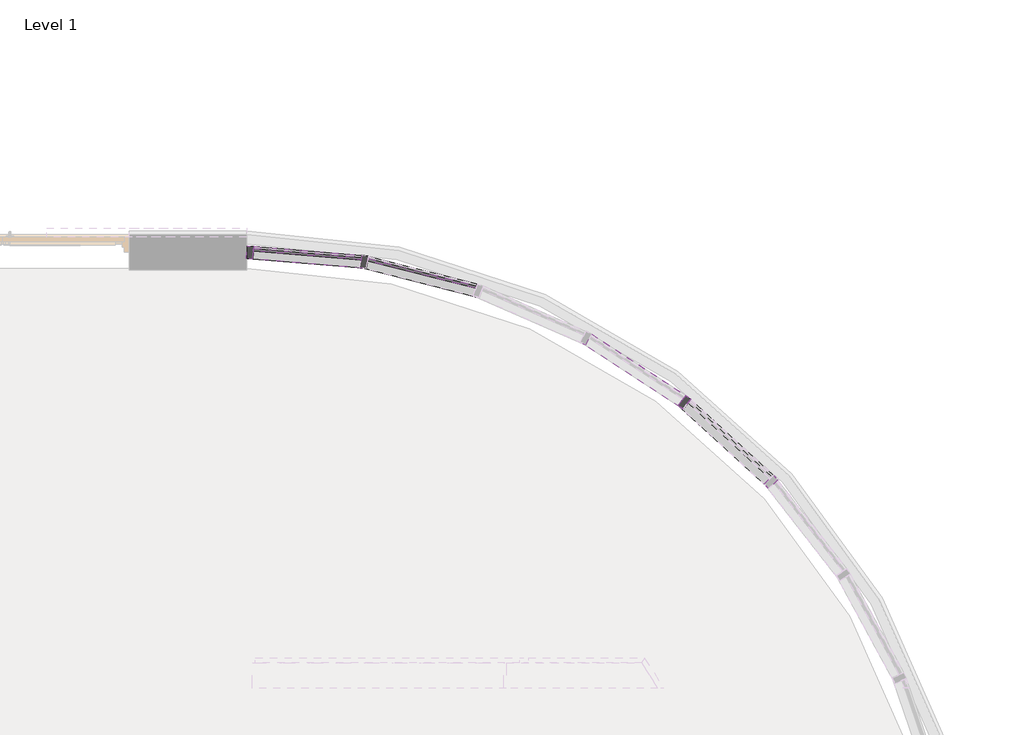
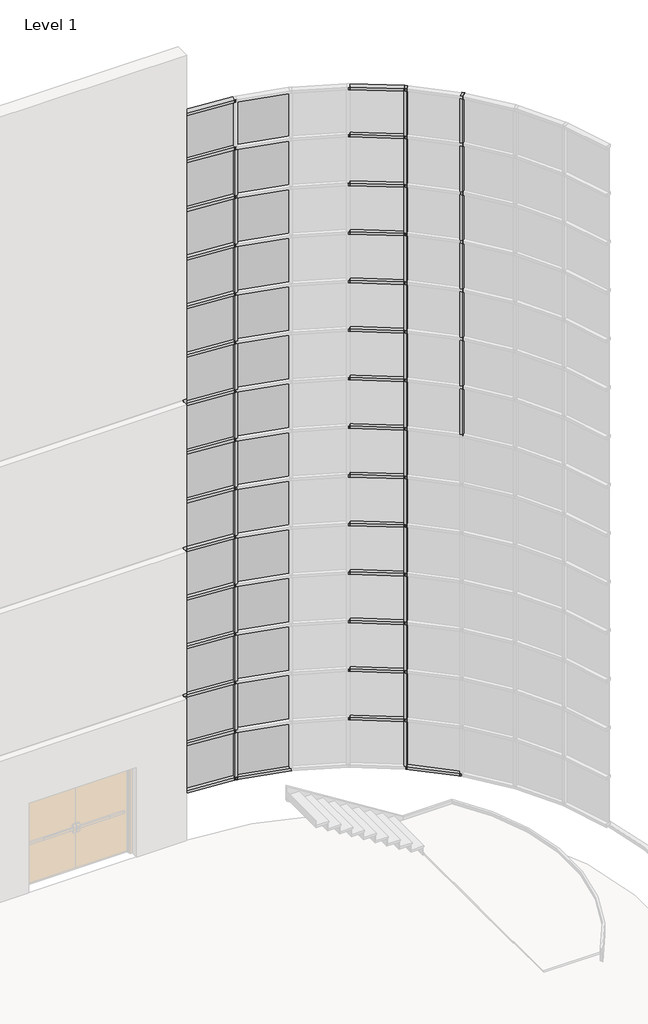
# One storey, part 14 of 20: 79 members, 28 plates.
"""IFC4 building model written with IfcOpenShell, lengths in millimetres."""

from ifc_helpers import new_model, si_unit, origin, place, context, project, spatial, transform, mapped, element, save
from components import member_252506b7, member_68fe8548, member_6fd4d727, member_43d56b1e, member_f830fa99, member_935f61b8, member_e2a7e38a, system_panel_glazed_e4675ec4, system_panel_glazed_da602fa6, system_panel_glazed_b699a21d, system_panel_glazed_77fd207e

model = new_model("IFC4")

# Units and contexts
model_context = context("Model", 3, world=origin())
ifc_project = project(units=[si_unit("LENGTHUNIT", "METRE", prefix="MILLI")], contexts=[model_context])

# Site, building, storey
site = spatial("IfcSite", under=ifc_project)
building = spatial("IfcBuilding", under=site)
storey = spatial("IfcBuildingStorey", under=building, Name="Level 1", Elevation=0.0)

# Members
placement = place(None, origin())
member_shape = member_252506b7(model_context)
element("IfcMember", 1, ObjectType="Rectangular Mullion : 2.5\" x 5\" rectangular", at=placement, inside=storey, context=model_context, shape_type="MappedRepresentation", body=[
    mapped(member_shape, transform((19081.3311433, 4538.4327406, 17983.2), x_axis=(0.0, 0.0, 1.0), y_axis=(-0.08257934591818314, -0.9965844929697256, 0.0), z_axis=(0.9965844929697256, -0.08257934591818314, 0.0))),
])
member_2_shape = member_68fe8548(model_context)
element("IfcMember", 2, ObjectType="Rectangular Mullion : 2.5\" x 5\" rectangular", at=placement, inside=storey, context=model_context, shape_type="MappedRepresentation", body=[
    mapped(member_2_shape, transform((22296.2108179, 3145.2196657, 17983.2), x_axis=(0.0, 0.0, 1.0), y_axis=(-0.5469481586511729, -0.8371664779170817, 0.0), z_axis=(0.8371664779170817, -0.5469481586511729, 0.0))),
])
member_3_shape = member_6fd4d727(model_context)
element("IfcMember", 3, ObjectType="Rectangular Mullion : 2.5\" x 5\" rectangular", at=placement, inside=storey, context=model_context, shape_type="MappedRepresentation", body=[
    mapped(member_3_shape, transform((18001.2170874, 4627.9335435, 1092.2), x_axis=(0.0, 0.0, -1.0), y_axis=(-0.08257934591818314, -0.9965844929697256, 0.0), z_axis=(-0.9965844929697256, 0.08257934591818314, 0.0))),
])
element("IfcMember", 4, ObjectType="Rectangular Mullion : 2.5\" x 5\" rectangular", at=placement, inside=storey, context=model_context, shape_type="MappedRepresentation", body=[
    mapped(member_2_shape, transform((19143.7511594, 4528.0166821, 1092.2), x_axis=(0.0, 0.0, -1.0), y_axis=(-0.2454854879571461, -0.9694002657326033, 0.0), z_axis=(-0.9694002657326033, 0.2454854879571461, 0.0))),
])
element("IfcMember", 5, ObjectType="Rectangular Mullion : 2.5\" x 5\" rectangular", at=placement, inside=storey, context=model_context, shape_type="MappedRepresentation", body=[
    mapped(member_2_shape, transform((22346.1500877, 3106.3503718, 1092.2), x_axis=(0.0, 0.0, -1.0), y_axis=(-0.6772815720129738, -0.735723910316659, 0.0), z_axis=(-0.7357239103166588, 0.6772815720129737, 0.0))),
])
member_4_shape = member_43d56b1e(model_context)
element("IfcMember", 6, ObjectType="Rectangular Mullion : 2.5\" x 5\" rectangular", at=placement, inside=storey, context=model_context, shape_type="MappedRepresentation", body=[
    mapped(member_4_shape, transform((19081.3311433, 4538.4327406, 2298.7), x_axis=(0.0, 0.0, 1.0), y_axis=(-0.08257934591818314, -0.9965844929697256, 0.0), z_axis=(0.9965844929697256, -0.08257934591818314, 0.0))),
])
element("IfcMember", 7, ObjectType="Rectangular Mullion : 2.5\" x 5\" rectangular", at=placement, inside=storey, context=model_context, shape_type="MappedRepresentation", body=[
    mapped(member_4_shape, transform((19081.3311433, 4538.4327406, 3505.2), x_axis=(0.0, 0.0, 1.0), y_axis=(-0.08257934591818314, -0.9965844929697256, 0.0), z_axis=(0.9965844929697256, -0.08257934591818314, 0.0))),
])
element("IfcMember", 8, ObjectType="Rectangular Mullion : 2.5\" x 5\" rectangular", at=placement, inside=storey, context=model_context, shape_type="MappedRepresentation", body=[
    mapped(member_4_shape, transform((19081.3311433, 4538.4327406, 4711.7), x_axis=(0.0, 0.0, 1.0), y_axis=(-0.08257934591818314, -0.9965844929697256, 0.0), z_axis=(0.9965844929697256, -0.08257934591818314, 0.0))),
])
element("IfcMember", 9, ObjectType="Rectangular Mullion : 2.5\" x 5\" rectangular", at=placement, inside=storey, context=model_context, shape_type="MappedRepresentation", body=[
    mapped(member_4_shape, transform((19081.3311433, 4538.4327406, 5918.2), x_axis=(0.0, 0.0, 1.0), y_axis=(-0.08257934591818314, -0.9965844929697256, 0.0), z_axis=(0.9965844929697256, -0.08257934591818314, 0.0))),
])
element("IfcMember", 10, ObjectType="Rectangular Mullion : 2.5\" x 5\" rectangular", at=placement, inside=storey, context=model_context, shape_type="MappedRepresentation", body=[
    mapped(member_4_shape, transform((19081.3311433, 4538.4327406, 7124.7), x_axis=(0.0, 0.0, 1.0), y_axis=(-0.08257934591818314, -0.9965844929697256, 0.0), z_axis=(0.9965844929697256, -0.08257934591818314, 0.0))),
])
element("IfcMember", 11, ObjectType="Rectangular Mullion : 2.5\" x 5\" rectangular", at=placement, inside=storey, context=model_context, shape_type="MappedRepresentation", body=[
    mapped(member_4_shape, transform((19081.3311433, 4538.4327406, 8331.2), x_axis=(0.0, 0.0, 1.0), y_axis=(-0.08257934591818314, -0.9965844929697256, 0.0), z_axis=(0.9965844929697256, -0.08257934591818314, 0.0))),
])
element("IfcMember", 12, ObjectType="Rectangular Mullion : 2.5\" x 5\" rectangular", at=placement, inside=storey, context=model_context, shape_type="MappedRepresentation", body=[
    mapped(member_4_shape, transform((19081.3311433, 4538.4327406, 9537.7), x_axis=(0.0, 0.0, 1.0), y_axis=(-0.08257934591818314, -0.9965844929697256, 0.0), z_axis=(0.9965844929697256, -0.08257934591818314, 0.0))),
])
element("IfcMember", 13, ObjectType="Rectangular Mullion : 2.5\" x 5\" rectangular", at=placement, inside=storey, context=model_context, shape_type="MappedRepresentation", body=[
    mapped(member_4_shape, transform((19081.3311433, 4538.4327406, 10744.2), x_axis=(0.0, 0.0, 1.0), y_axis=(-0.08257934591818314, -0.9965844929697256, 0.0), z_axis=(0.9965844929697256, -0.08257934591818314, 0.0))),
])
element("IfcMember", 14, ObjectType="Rectangular Mullion : 2.5\" x 5\" rectangular", at=placement, inside=storey, context=model_context, shape_type="MappedRepresentation", body=[
    mapped(member_4_shape, transform((19081.3311433, 4538.4327406, 11950.7), x_axis=(0.0, 0.0, 1.0), y_axis=(-0.08257934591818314, -0.9965844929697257, 0.0), z_axis=(0.9965844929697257, -0.08257934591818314, 0.0))),
])
element("IfcMember", 15, ObjectType="Rectangular Mullion : 2.5\" x 5\" rectangular", at=placement, inside=storey, context=model_context, shape_type="MappedRepresentation", body=[
    mapped(member_4_shape, transform((19081.3311433, 4538.4327406, 13157.2), x_axis=(0.0, 0.0, 1.0), y_axis=(-0.08257934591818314, -0.9965844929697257, 0.0), z_axis=(0.9965844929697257, -0.08257934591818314, 0.0))),
])
element("IfcMember", 16, ObjectType="Rectangular Mullion : 2.5\" x 5\" rectangular", at=placement, inside=storey, context=model_context, shape_type="MappedRepresentation", body=[
    mapped(member_4_shape, transform((19081.3311433, 4538.4327406, 14363.7), x_axis=(0.0, 0.0, 1.0), y_axis=(-0.08257934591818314, -0.9965844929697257, 0.0), z_axis=(0.9965844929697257, -0.08257934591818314, 0.0))),
])
element("IfcMember", 17, ObjectType="Rectangular Mullion : 2.5\" x 5\" rectangular", at=placement, inside=storey, context=model_context, shape_type="MappedRepresentation", body=[
    mapped(member_4_shape, transform((19081.3311433, 4538.4327406, 15570.2), x_axis=(0.0, 0.0, 1.0), y_axis=(-0.08257934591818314, -0.9965844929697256, 0.0), z_axis=(0.9965844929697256, -0.08257934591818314, 0.0))),
])
element("IfcMember", 18, ObjectType="Rectangular Mullion : 2.5\" x 5\" rectangular", at=placement, inside=storey, context=model_context, shape_type="MappedRepresentation", body=[
    mapped(member_4_shape, transform((19081.3311433, 4538.4327406, 16776.7), x_axis=(0.0, 0.0, 1.0), y_axis=(-0.08257934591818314, -0.9965844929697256, 0.0), z_axis=(0.9965844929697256, -0.08257934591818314, 0.0))),
])
member_5_shape = member_f830fa99(model_context)
element("IfcMember", 19, ObjectType="Rectangular Mullion : 2.5\" x 5\" rectangular", at=placement, inside=storey, context=model_context, shape_type="MappedRepresentation", body=[
    mapped(member_5_shape, transform((22296.2108179, 3145.2196657, 2298.7), x_axis=(0.0, 0.0, 1.0), y_axis=(-0.5469481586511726, -0.8371664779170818, 0.0), z_axis=(0.8371664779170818, -0.5469481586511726, 0.0))),
])
element("IfcMember", 20, ObjectType="Rectangular Mullion : 2.5\" x 5\" rectangular", at=placement, inside=storey, context=model_context, shape_type="MappedRepresentation", body=[
    mapped(member_5_shape, transform((22296.2108179, 3145.2196657, 3505.2), x_axis=(0.0, 0.0, 1.0), y_axis=(-0.546948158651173, -0.8371664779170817, 0.0), z_axis=(0.8371664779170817, -0.546948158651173, 0.0))),
])
element("IfcMember", 21, ObjectType="Rectangular Mullion : 2.5\" x 5\" rectangular", at=placement, inside=storey, context=model_context, shape_type="MappedRepresentation", body=[
    mapped(member_5_shape, transform((22296.2108179, 3145.2196657, 4711.7), x_axis=(0.0, 0.0, 1.0), y_axis=(-0.546948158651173, -0.8371664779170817, 0.0), z_axis=(0.8371664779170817, -0.546948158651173, 0.0))),
])
element("IfcMember", 22, ObjectType="Rectangular Mullion : 2.5\" x 5\" rectangular", at=placement, inside=storey, context=model_context, shape_type="MappedRepresentation", body=[
    mapped(member_5_shape, transform((22296.2108179, 3145.2196657, 5918.2), x_axis=(0.0, 0.0, 1.0), y_axis=(-0.5469481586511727, -0.8371664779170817, 0.0), z_axis=(0.8371664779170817, -0.5469481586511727, 0.0))),
])
element("IfcMember", 23, ObjectType="Rectangular Mullion : 2.5\" x 5\" rectangular", at=placement, inside=storey, context=model_context, shape_type="MappedRepresentation", body=[
    mapped(member_5_shape, transform((22296.2108179, 3145.2196657, 7124.7), x_axis=(0.0, 0.0, 1.0), y_axis=(-0.5469481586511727, -0.8371664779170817, 0.0), z_axis=(0.8371664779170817, -0.5469481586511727, 0.0))),
])
element("IfcMember", 24, ObjectType="Rectangular Mullion : 2.5\" x 5\" rectangular", at=placement, inside=storey, context=model_context, shape_type="MappedRepresentation", body=[
    mapped(member_5_shape, transform((22296.2108179, 3145.2196657, 8331.2), x_axis=(0.0, 0.0, 1.0), y_axis=(-0.546948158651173, -0.8371664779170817, 0.0), z_axis=(0.8371664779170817, -0.546948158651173, 0.0))),
])
element("IfcMember", 25, ObjectType="Rectangular Mullion : 2.5\" x 5\" rectangular", at=placement, inside=storey, context=model_context, shape_type="MappedRepresentation", body=[
    mapped(member_5_shape, transform((22296.2108179, 3145.2196657, 9537.7), x_axis=(0.0, 0.0, 1.0), y_axis=(-0.546948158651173, -0.8371664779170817, 0.0), z_axis=(0.8371664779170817, -0.546948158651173, 0.0))),
])
element("IfcMember", 26, ObjectType="Rectangular Mullion : 2.5\" x 5\" rectangular", at=placement, inside=storey, context=model_context, shape_type="MappedRepresentation", body=[
    mapped(member_5_shape, transform((22296.2108179, 3145.2196657, 10744.2), x_axis=(0.0, 0.0, 1.0), y_axis=(-0.5469481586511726, -0.8371664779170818, 0.0), z_axis=(0.8371664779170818, -0.5469481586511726, 0.0))),
])
element("IfcMember", 27, ObjectType="Rectangular Mullion : 2.5\" x 5\" rectangular", at=placement, inside=storey, context=model_context, shape_type="MappedRepresentation", body=[
    mapped(member_5_shape, transform((22296.2108179, 3145.2196657, 11950.7), x_axis=(0.0, 0.0, 1.0), y_axis=(-0.546948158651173, -0.8371664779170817, 0.0), z_axis=(0.8371664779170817, -0.546948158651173, 0.0))),
])
element("IfcMember", 28, ObjectType="Rectangular Mullion : 2.5\" x 5\" rectangular", at=placement, inside=storey, context=model_context, shape_type="MappedRepresentation", body=[
    mapped(member_5_shape, transform((22296.2108179, 3145.2196657, 13157.2), x_axis=(0.0, 0.0, 1.0), y_axis=(-0.5469481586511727, -0.8371664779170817, 0.0), z_axis=(0.8371664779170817, -0.5469481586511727, 0.0))),
])
element("IfcMember", 29, ObjectType="Rectangular Mullion : 2.5\" x 5\" rectangular", at=placement, inside=storey, context=model_context, shape_type="MappedRepresentation", body=[
    mapped(member_5_shape, transform((22296.2108179, 3145.2196657, 14363.7), x_axis=(0.0, 0.0, 1.0), y_axis=(-0.5469481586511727, -0.8371664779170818, 0.0), z_axis=(0.8371664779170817, -0.5469481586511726, 0.0))),
])
element("IfcMember", 30, ObjectType="Rectangular Mullion : 2.5\" x 5\" rectangular", at=placement, inside=storey, context=model_context, shape_type="MappedRepresentation", body=[
    mapped(member_5_shape, transform((22296.2108179, 3145.2196657, 15570.2), x_axis=(0.0, 0.0, 1.0), y_axis=(-0.546948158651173, -0.8371664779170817, 0.0), z_axis=(0.8371664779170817, -0.546948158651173, 0.0))),
])
element("IfcMember", 31, ObjectType="Rectangular Mullion : 2.5\" x 5\" rectangular", at=placement, inside=storey, context=model_context, shape_type="MappedRepresentation", body=[
    mapped(member_5_shape, transform((22296.2108179, 3145.2196657, 16776.7), x_axis=(0.0, 0.0, 1.0), y_axis=(-0.546948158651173, -0.8371664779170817, 0.0), z_axis=(0.8371664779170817, -0.546948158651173, 0.0))),
])
member_6_shape = member_935f61b8(model_context)
element("IfcMember", 32, ObjectType="Rectangular Mullion : 2.5\" x 5\" rectangular", at=placement, inside=storey, context=model_context, shape_type="MappedRepresentation", body=[
    mapped(member_6_shape, transform((19112.972701, 4535.8108464, 1092.2), x_axis=(0.9863613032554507, -0.16459459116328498, 0.0), y_axis=(-0.16459459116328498, -0.9863613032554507, 0.0), z_axis=(0.0, 0.0, -1.0))),
])
element("IfcMember", 33, ObjectType="Rectangular Mullion : 2.5\" x 5\" rectangular", at=placement, inside=storey, context=model_context, shape_type="MappedRepresentation", body=[
    mapped(member_6_shape, transform((22322.7908536, 3127.8540617, 1092.2), x_axis=(0.789140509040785, -0.6142127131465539, 0.0), y_axis=(-0.6142127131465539, -0.789140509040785, 0.0), z_axis=(0.0, 0.0, -1.0))),
])
element("IfcMember", 34, ObjectType="Rectangular Mullion : 2.5\" x 5\" rectangular", at=placement, inside=storey, context=model_context, shape_type="MappedRepresentation", body=[
    mapped(member_6_shape, transform((19112.972701, 4535.8108464, 2298.7), x_axis=(0.9863613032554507, -0.16459459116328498, 0.0), y_axis=(-0.16459459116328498, -0.9863613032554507, 0.0), z_axis=(0.0, 0.0, -1.0))),
])
element("IfcMember", 35, ObjectType="Rectangular Mullion : 2.5\" x 5\" rectangular", at=placement, inside=storey, context=model_context, shape_type="MappedRepresentation", body=[
    mapped(member_6_shape, transform((22322.7908536, 3127.8540617, 2298.7), x_axis=(0.789140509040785, -0.6142127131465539, 0.0), y_axis=(-0.6142127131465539, -0.789140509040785, 0.0), z_axis=(0.0, 0.0, -1.0))),
])
element("IfcMember", 36, ObjectType="Rectangular Mullion : 2.5\" x 5\" rectangular", at=placement, inside=storey, context=model_context, shape_type="MappedRepresentation", body=[
    mapped(member_6_shape, transform((19112.972701, 4535.8108464, 3505.2), x_axis=(0.9863613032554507, -0.16459459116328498, 0.0), y_axis=(-0.16459459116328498, -0.9863613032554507, 0.0), z_axis=(0.0, 0.0, -1.0))),
])
element("IfcMember", 37, ObjectType="Rectangular Mullion : 2.5\" x 5\" rectangular", at=placement, inside=storey, context=model_context, shape_type="MappedRepresentation", body=[
    mapped(member_6_shape, transform((22322.7908536, 3127.8540617, 3505.2), x_axis=(0.789140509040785, -0.6142127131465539, 0.0), y_axis=(-0.6142127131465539, -0.789140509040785, 0.0), z_axis=(0.0, 0.0, -1.0))),
])
element("IfcMember", 38, ObjectType="Rectangular Mullion : 2.5\" x 5\" rectangular", at=placement, inside=storey, context=model_context, shape_type="MappedRepresentation", body=[
    mapped(member_6_shape, transform((19112.972701, 4535.8108464, 4711.7), x_axis=(0.9863613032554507, -0.16459459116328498, 0.0), y_axis=(-0.16459459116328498, -0.9863613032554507, 0.0), z_axis=(0.0, 0.0, -1.0))),
])
element("IfcMember", 39, ObjectType="Rectangular Mullion : 2.5\" x 5\" rectangular", at=placement, inside=storey, context=model_context, shape_type="MappedRepresentation", body=[
    mapped(member_6_shape, transform((22322.7908536, 3127.8540617, 4711.7), x_axis=(0.789140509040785, -0.6142127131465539, 0.0), y_axis=(-0.6142127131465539, -0.789140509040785, 0.0), z_axis=(0.0, 0.0, -1.0))),
])
element("IfcMember", 40, ObjectType="Rectangular Mullion : 2.5\" x 5\" rectangular", at=placement, inside=storey, context=model_context, shape_type="MappedRepresentation", body=[
    mapped(member_6_shape, transform((19112.972701, 4535.8108464, 5918.2), x_axis=(0.9863613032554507, -0.16459459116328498, 0.0), y_axis=(-0.16459459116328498, -0.9863613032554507, 0.0), z_axis=(0.0, 0.0, -1.0))),
])
element("IfcMember", 41, ObjectType="Rectangular Mullion : 2.5\" x 5\" rectangular", at=placement, inside=storey, context=model_context, shape_type="MappedRepresentation", body=[
    mapped(member_6_shape, transform((22322.7908536, 3127.8540617, 5918.2), x_axis=(0.789140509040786, -0.6142127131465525, 0.0), y_axis=(-0.6142127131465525, -0.789140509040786, 0.0), z_axis=(0.0, 0.0, -1.0))),
])
element("IfcMember", 42, ObjectType="Rectangular Mullion : 2.5\" x 5\" rectangular", at=placement, inside=storey, context=model_context, shape_type="MappedRepresentation", body=[
    mapped(member_6_shape, transform((19112.972701, 4535.8108464, 7124.7), x_axis=(0.9863613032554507, -0.16459459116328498, 0.0), y_axis=(-0.16459459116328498, -0.9863613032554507, 0.0), z_axis=(0.0, 0.0, -1.0))),
])
element("IfcMember", 43, ObjectType="Rectangular Mullion : 2.5\" x 5\" rectangular", at=placement, inside=storey, context=model_context, shape_type="MappedRepresentation", body=[
    mapped(member_6_shape, transform((22322.7908536, 3127.8540617, 7124.7), x_axis=(0.789140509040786, -0.6142127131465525, 0.0), y_axis=(-0.6142127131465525, -0.789140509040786, 0.0), z_axis=(0.0, 0.0, -1.0))),
])
element("IfcMember", 44, ObjectType="Rectangular Mullion : 2.5\" x 5\" rectangular", at=placement, inside=storey, context=model_context, shape_type="MappedRepresentation", body=[
    mapped(member_6_shape, transform((19112.972701, 4535.8108464, 8331.2), x_axis=(0.9863613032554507, -0.16459459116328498, 0.0), y_axis=(-0.16459459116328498, -0.9863613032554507, 0.0), z_axis=(0.0, 0.0, -1.0))),
])
element("IfcMember", 45, ObjectType="Rectangular Mullion : 2.5\" x 5\" rectangular", at=placement, inside=storey, context=model_context, shape_type="MappedRepresentation", body=[
    mapped(member_6_shape, transform((22322.7908536, 3127.8540617, 8331.2), x_axis=(0.789140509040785, -0.6142127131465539, 0.0), y_axis=(-0.6142127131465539, -0.789140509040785, 0.0), z_axis=(0.0, 0.0, -1.0))),
])
element("IfcMember", 46, ObjectType="Rectangular Mullion : 2.5\" x 5\" rectangular", at=placement, inside=storey, context=model_context, shape_type="MappedRepresentation", body=[
    mapped(member_6_shape, transform((19112.972701, 4535.8108464, 9537.7), x_axis=(0.9863613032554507, -0.16459459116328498, 0.0), y_axis=(-0.16459459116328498, -0.9863613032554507, 0.0), z_axis=(0.0, 0.0, -1.0))),
])
element("IfcMember", 47, ObjectType="Rectangular Mullion : 2.5\" x 5\" rectangular", at=placement, inside=storey, context=model_context, shape_type="MappedRepresentation", body=[
    mapped(member_6_shape, transform((22322.7908536, 3127.8540617, 9537.7), x_axis=(0.789140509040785, -0.6142127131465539, 0.0), y_axis=(-0.6142127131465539, -0.789140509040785, 0.0), z_axis=(0.0, 0.0, -1.0))),
])
element("IfcMember", 48, ObjectType="Rectangular Mullion : 2.5\" x 5\" rectangular", at=placement, inside=storey, context=model_context, shape_type="MappedRepresentation", body=[
    mapped(member_6_shape, transform((23190.2577761, 2329.2945033, 9537.7), x_axis=(0.6772815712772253, -0.7357239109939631, 0.0), y_axis=(-0.7357239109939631, -0.6772815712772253, 0.0), z_axis=(0.0, 0.0, -1.0))),
])
element("IfcMember", 49, ObjectType="Rectangular Mullion : 2.5\" x 5\" rectangular", at=placement, inside=storey, context=model_context, shape_type="MappedRepresentation", body=[
    mapped(member_6_shape, transform((19112.972701, 4535.8108464, 10744.2), x_axis=(0.9863613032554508, -0.1645945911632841, 0.0), y_axis=(-0.1645945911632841, -0.9863613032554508, 0.0), z_axis=(0.0, 0.0, -1.0))),
])
element("IfcMember", 50, ObjectType="Rectangular Mullion : 2.5\" x 5\" rectangular", at=placement, inside=storey, context=model_context, shape_type="MappedRepresentation", body=[
    mapped(member_6_shape, transform((22322.7908536, 3127.8540617, 10744.2), x_axis=(0.789140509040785, -0.6142127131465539, 0.0), y_axis=(-0.6142127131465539, -0.789140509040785, 0.0), z_axis=(0.0, 0.0, -1.0))),
])
element("IfcMember", 51, ObjectType="Rectangular Mullion : 2.5\" x 5\" rectangular", at=placement, inside=storey, context=model_context, shape_type="MappedRepresentation", body=[
    mapped(member_6_shape, transform((23190.2577761, 2329.2945033, 10744.2), x_axis=(0.6772815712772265, -0.7357239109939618, 0.0), y_axis=(-0.7357239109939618, -0.6772815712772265, 0.0), z_axis=(0.0, 0.0, -1.0))),
])
element("IfcMember", 52, ObjectType="Rectangular Mullion : 2.5\" x 5\" rectangular", at=placement, inside=storey, context=model_context, shape_type="MappedRepresentation", body=[
    mapped(member_6_shape, transform((19112.972701, 4535.8108464, 11950.7), x_axis=(0.9863613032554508, -0.1645945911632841, 0.0), y_axis=(-0.1645945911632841, -0.9863613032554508, 0.0), z_axis=(0.0, 0.0, -1.0))),
])
element("IfcMember", 53, ObjectType="Rectangular Mullion : 2.5\" x 5\" rectangular", at=placement, inside=storey, context=model_context, shape_type="MappedRepresentation", body=[
    mapped(member_6_shape, transform((22322.7908536, 3127.8540617, 11950.7), x_axis=(0.789140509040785, -0.6142127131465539, 0.0), y_axis=(-0.6142127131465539, -0.789140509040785, 0.0), z_axis=(0.0, 0.0, -1.0))),
])
element("IfcMember", 54, ObjectType="Rectangular Mullion : 2.5\" x 5\" rectangular", at=placement, inside=storey, context=model_context, shape_type="MappedRepresentation", body=[
    mapped(member_6_shape, transform((23190.2577761, 2329.2945033, 11950.7), x_axis=(0.6772815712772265, -0.7357239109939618, 0.0), y_axis=(-0.7357239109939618, -0.6772815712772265, 0.0), z_axis=(0.0, 0.0, -1.0))),
])
element("IfcMember", 55, ObjectType="Rectangular Mullion : 2.5\" x 5\" rectangular", at=placement, inside=storey, context=model_context, shape_type="MappedRepresentation", body=[
    mapped(member_6_shape, transform((19112.972701, 4535.8108464, 13157.2), x_axis=(0.9863613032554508, -0.1645945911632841, 0.0), y_axis=(-0.1645945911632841, -0.9863613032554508, 0.0), z_axis=(0.0, 0.0, -1.0))),
])
element("IfcMember", 56, ObjectType="Rectangular Mullion : 2.5\" x 5\" rectangular", at=placement, inside=storey, context=model_context, shape_type="MappedRepresentation", body=[
    mapped(member_6_shape, transform((22322.7908536, 3127.8540617, 13157.2), x_axis=(0.789140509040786, -0.6142127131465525, 0.0), y_axis=(-0.6142127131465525, -0.789140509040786, 0.0), z_axis=(0.0, 0.0, -1.0))),
])
element("IfcMember", 57, ObjectType="Rectangular Mullion : 2.5\" x 5\" rectangular", at=placement, inside=storey, context=model_context, shape_type="MappedRepresentation", body=[
    mapped(member_6_shape, transform((23190.2577761, 2329.2945033, 13157.2), x_axis=(0.6772815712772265, -0.7357239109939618, 0.0), y_axis=(-0.7357239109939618, -0.6772815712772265, 0.0), z_axis=(0.0, 0.0, -1.0))),
])
element("IfcMember", 58, ObjectType="Rectangular Mullion : 2.5\" x 5\" rectangular", at=placement, inside=storey, context=model_context, shape_type="MappedRepresentation", body=[
    mapped(member_6_shape, transform((19112.972701, 4535.8108464, 14363.7), x_axis=(0.9863613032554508, -0.1645945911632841, 0.0), y_axis=(-0.1645945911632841, -0.9863613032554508, 0.0), z_axis=(0.0, 0.0, -1.0))),
])
element("IfcMember", 59, ObjectType="Rectangular Mullion : 2.5\" x 5\" rectangular", at=placement, inside=storey, context=model_context, shape_type="MappedRepresentation", body=[
    mapped(member_6_shape, transform((22322.7908536, 3127.8540617, 14363.7), x_axis=(0.789140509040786, -0.6142127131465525, 0.0), y_axis=(-0.6142127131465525, -0.789140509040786, 0.0), z_axis=(0.0, 0.0, -1.0))),
])
element("IfcMember", 60, ObjectType="Rectangular Mullion : 2.5\" x 5\" rectangular", at=placement, inside=storey, context=model_context, shape_type="MappedRepresentation", body=[
    mapped(member_6_shape, transform((23190.2577761, 2329.2945033, 14363.7), x_axis=(0.6772815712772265, -0.7357239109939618, 0.0), y_axis=(-0.7357239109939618, -0.6772815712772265, 0.0), z_axis=(0.0, 0.0, -1.0))),
])
element("IfcMember", 61, ObjectType="Rectangular Mullion : 2.5\" x 5\" rectangular", at=placement, inside=storey, context=model_context, shape_type="MappedRepresentation", body=[
    mapped(member_6_shape, transform((19112.972701, 4535.8108464, 15570.2), x_axis=(0.9863613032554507, -0.16459459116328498, 0.0), y_axis=(-0.16459459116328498, -0.9863613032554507, 0.0), z_axis=(0.0, 0.0, -1.0))),
])
element("IfcMember", 62, ObjectType="Rectangular Mullion : 2.5\" x 5\" rectangular", at=placement, inside=storey, context=model_context, shape_type="MappedRepresentation", body=[
    mapped(member_6_shape, transform((22322.7908536, 3127.8540617, 15570.2), x_axis=(0.789140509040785, -0.6142127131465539, 0.0), y_axis=(-0.6142127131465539, -0.789140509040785, 0.0), z_axis=(0.0, 0.0, -1.0))),
])
element("IfcMember", 63, ObjectType="Rectangular Mullion : 2.5\" x 5\" rectangular", at=placement, inside=storey, context=model_context, shape_type="MappedRepresentation", body=[
    mapped(member_6_shape, transform((23190.2577761, 2329.2945033, 15570.2), x_axis=(0.6772815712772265, -0.7357239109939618, 0.0), y_axis=(-0.7357239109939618, -0.6772815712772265, 0.0), z_axis=(0.0, 0.0, -1.0))),
])
element("IfcMember", 64, ObjectType="Rectangular Mullion : 2.5\" x 5\" rectangular", at=placement, inside=storey, context=model_context, shape_type="MappedRepresentation", body=[
    mapped(member_6_shape, transform((22322.7908536, 3127.8540617, 16776.7), x_axis=(0.789140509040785, -0.6142127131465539, 0.0), y_axis=(-0.6142127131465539, -0.789140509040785, 0.0), z_axis=(0.0, 0.0, -1.0))),
])
element("IfcMember", 65, ObjectType="Rectangular Mullion : 2.5\" x 5\" rectangular", at=placement, inside=storey, context=model_context, shape_type="MappedRepresentation", body=[
    mapped(member_6_shape, transform((23190.2577761, 2329.2945033, 16776.7), x_axis=(0.6772815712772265, -0.7357239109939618, 0.0), y_axis=(-0.7357239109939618, -0.6772815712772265, 0.0), z_axis=(0.0, 0.0, -1.0))),
])
member_7_shape = member_e2a7e38a(model_context)
element("IfcMember", 66, ObjectType="Rectangular Mullion : 2.5\" x 5\" rectangular", at=placement, inside=storey, context=model_context, shape_type="MappedRepresentation", body=[
    mapped(member_7_shape, transform((17937.9339721, 4633.1773319, 17983.2), x_axis=(-0.9965844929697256, 0.08257934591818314, 0.0), y_axis=(-0.08257934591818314, -0.9965844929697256, 0.0), z_axis=(0.0, 0.0, 1.0))),
])
element("IfcMember", 67, ObjectType="Rectangular Mullion : 2.5\" x 5\" rectangular", at=placement, inside=storey, context=model_context, shape_type="MappedRepresentation", body=[
    mapped(member_7_shape, transform((17937.9339721, 4633.1773319, 2298.7), x_axis=(-0.9965844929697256, 0.08257934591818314, 0.0), y_axis=(-0.08257934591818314, -0.9965844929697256, 0.0), z_axis=(0.0, 0.0, 1.0))),
])
element("IfcMember", 68, ObjectType="Rectangular Mullion : 2.5\" x 5\" rectangular", at=placement, inside=storey, context=model_context, shape_type="MappedRepresentation", body=[
    mapped(member_7_shape, transform((17937.9339721, 4633.1773319, 3505.2), x_axis=(-0.9965844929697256, 0.08257934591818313, 0.0), y_axis=(-0.08257934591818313, -0.9965844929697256, 0.0), z_axis=(0.0, 0.0, 1.0))),
])
element("IfcMember", 69, ObjectType="Rectangular Mullion : 2.5\" x 5\" rectangular", at=placement, inside=storey, context=model_context, shape_type="MappedRepresentation", body=[
    mapped(member_7_shape, transform((17937.9339721, 4633.1773319, 4711.7), x_axis=(-0.9965844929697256, 0.08257934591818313, 0.0), y_axis=(-0.08257934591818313, -0.9965844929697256, 0.0), z_axis=(0.0, 0.0, 1.0))),
])
element("IfcMember", 70, ObjectType="Rectangular Mullion : 2.5\" x 5\" rectangular", at=placement, inside=storey, context=model_context, shape_type="MappedRepresentation", body=[
    mapped(member_7_shape, transform((17937.9339721, 4633.1773319, 5918.2), x_axis=(-0.9965844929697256, 0.08257934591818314, 0.0), y_axis=(-0.08257934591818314, -0.9965844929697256, 0.0), z_axis=(0.0, 0.0, 1.0))),
])
element("IfcMember", 71, ObjectType="Rectangular Mullion : 2.5\" x 5\" rectangular", at=placement, inside=storey, context=model_context, shape_type="MappedRepresentation", body=[
    mapped(member_7_shape, transform((17937.9339721, 4633.1773319, 7124.7), x_axis=(-0.9965844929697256, 0.08257934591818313, 0.0), y_axis=(-0.08257934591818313, -0.9965844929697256, 0.0), z_axis=(0.0, 0.0, 1.0))),
])
element("IfcMember", 72, ObjectType="Rectangular Mullion : 2.5\" x 5\" rectangular", at=placement, inside=storey, context=model_context, shape_type="MappedRepresentation", body=[
    mapped(member_7_shape, transform((17937.9339721, 4633.1773319, 8331.2), x_axis=(-0.9965844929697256, 0.08257934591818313, 0.0), y_axis=(-0.08257934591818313, -0.9965844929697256, 0.0), z_axis=(0.0, 0.0, 1.0))),
])
element("IfcMember", 73, ObjectType="Rectangular Mullion : 2.5\" x 5\" rectangular", at=placement, inside=storey, context=model_context, shape_type="MappedRepresentation", body=[
    mapped(member_7_shape, transform((17937.9339721, 4633.1773319, 9537.7), x_axis=(-0.9965844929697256, 0.08257934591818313, 0.0), y_axis=(-0.08257934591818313, -0.9965844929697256, 0.0), z_axis=(0.0, 0.0, 1.0))),
])
element("IfcMember", 74, ObjectType="Rectangular Mullion : 2.5\" x 5\" rectangular", at=placement, inside=storey, context=model_context, shape_type="MappedRepresentation", body=[
    mapped(member_7_shape, transform((17937.9339721, 4633.1773319, 10744.2), x_axis=(-0.9965844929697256, 0.08257934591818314, 0.0), y_axis=(-0.08257934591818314, -0.9965844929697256, 0.0), z_axis=(0.0, 0.0, 1.0))),
])
element("IfcMember", 75, ObjectType="Rectangular Mullion : 2.5\" x 5\" rectangular", at=placement, inside=storey, context=model_context, shape_type="MappedRepresentation", body=[
    mapped(member_7_shape, transform((17937.9339721, 4633.1773319, 11950.7), x_axis=(-0.9965844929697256, 0.08257934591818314, 0.0), y_axis=(-0.08257934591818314, -0.9965844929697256, 0.0), z_axis=(0.0, 0.0, 1.0))),
])
element("IfcMember", 76, ObjectType="Rectangular Mullion : 2.5\" x 5\" rectangular", at=placement, inside=storey, context=model_context, shape_type="MappedRepresentation", body=[
    mapped(member_7_shape, transform((17937.9339721, 4633.1773319, 13157.2), x_axis=(-0.9965844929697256, 0.08257934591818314, 0.0), y_axis=(-0.08257934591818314, -0.9965844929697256, 0.0), z_axis=(0.0, 0.0, 1.0))),
])
element("IfcMember", 77, ObjectType="Rectangular Mullion : 2.5\" x 5\" rectangular", at=placement, inside=storey, context=model_context, shape_type="MappedRepresentation", body=[
    mapped(member_7_shape, transform((17937.9339721, 4633.1773319, 14363.7), x_axis=(-0.9965844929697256, 0.08257934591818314, 0.0), y_axis=(-0.08257934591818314, -0.9965844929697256, 0.0), z_axis=(0.0, 0.0, 1.0))),
])
element("IfcMember", 78, ObjectType="Rectangular Mullion : 2.5\" x 5\" rectangular", at=placement, inside=storey, context=model_context, shape_type="MappedRepresentation", body=[
    mapped(member_7_shape, transform((17937.9339721, 4633.1773319, 15570.2), x_axis=(-0.9965844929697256, 0.08257934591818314, 0.0), y_axis=(-0.08257934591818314, -0.9965844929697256, 0.0), z_axis=(0.0, 0.0, 1.0))),
])
element("IfcMember", 79, ObjectType="Rectangular Mullion : 2.5\" x 5\" rectangular", at=placement, inside=storey, context=model_context, shape_type="MappedRepresentation", body=[
    mapped(member_7_shape, transform((17937.9339721, 4633.1773319, 16776.7), x_axis=(-0.9965844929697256, 0.08257934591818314, 0.0), y_axis=(-0.08257934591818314, -0.9965844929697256, 0.0), z_axis=(0.0, 0.0, 1.0))),
])

# Plates
system_panel_glazed_shape = system_panel_glazed_e4675ec4(model_context)
element("IfcPlate", 80, ObjectType="System Panel : Glazed", at=placement, inside=storey, context=model_context, shape_type="MappedRepresentation", body=[
    mapped(system_panel_glazed_shape, transform((18541.2741154, 4583.183142, 1155.7), x_axis=(0.9965844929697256, -0.08257934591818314, 0.0), y_axis=(0.08257934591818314, 0.9965844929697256, 0.0), z_axis=(0.0, 0.0, 1.0))),
])
element("IfcPlate", 81, ObjectType="System Panel : Glazed", at=placement, inside=storey, context=model_context, shape_type="MappedRepresentation", body=[
    mapped(system_panel_glazed_shape, transform((18541.2741154, 4583.183142, 16808.45), x_axis=(0.9965844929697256, -0.08257934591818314, 0.0), y_axis=(0.08257934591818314, 0.9965844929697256, 0.0), z_axis=(0.0, 0.0, 1.0))),
])
system_panel_glazed_2_shape = system_panel_glazed_da602fa6(model_context)
element("IfcPlate", 82, ObjectType="System Panel : Glazed", at=placement, inside=storey, context=model_context, shape_type="MappedRepresentation", body=[
    mapped(system_panel_glazed_2_shape, transform((19684.4660652, 4391.0890711, 1155.7), x_axis=(0.9694002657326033, -0.24548548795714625, 0.0), y_axis=(0.24548548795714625, 0.9694002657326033, 0.0), z_axis=(0.0, 0.0, 1.0))),
])
element("IfcPlate", 83, ObjectType="System Panel : Glazed", at=placement, inside=storey, context=model_context, shape_type="MappedRepresentation", body=[
    mapped(system_panel_glazed_2_shape, transform((19684.4660652, 4391.0890711, 16808.45), x_axis=(0.9694002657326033, -0.24548548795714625, 0.0), y_axis=(0.24548548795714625, 0.9694002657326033, 0.0), z_axis=(0.0, 0.0, 1.0))),
])
system_panel_glazed_3_shape = system_panel_glazed_b699a21d(model_context)
element("IfcPlate", 84, ObjectType="System Panel : Glazed", at=placement, inside=storey, context=model_context, shape_type="MappedRepresentation", body=[
    mapped(system_panel_glazed_3_shape, transform((18541.2741154, 4583.183142, 2330.45), x_axis=(0.9965844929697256, -0.08257934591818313, 0.0), y_axis=(0.08257934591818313, 0.9965844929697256, 0.0), z_axis=(0.0, 0.0, 1.0))),
])
element("IfcPlate", 85, ObjectType="System Panel : Glazed", at=placement, inside=storey, context=model_context, shape_type="MappedRepresentation", body=[
    mapped(system_panel_glazed_3_shape, transform((18541.2741154, 4583.183142, 3536.95), x_axis=(0.9965844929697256, -0.08257934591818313, 0.0), y_axis=(0.08257934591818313, 0.9965844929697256, 0.0), z_axis=(0.0, 0.0, 1.0))),
])
element("IfcPlate", 86, ObjectType="System Panel : Glazed", at=placement, inside=storey, context=model_context, shape_type="MappedRepresentation", body=[
    mapped(system_panel_glazed_3_shape, transform((18541.2741154, 4583.183142, 4743.45), x_axis=(0.9965844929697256, -0.08257934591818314, 0.0), y_axis=(0.08257934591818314, 0.9965844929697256, 0.0), z_axis=(0.0, 0.0, 1.0))),
])
element("IfcPlate", 87, ObjectType="System Panel : Glazed", at=placement, inside=storey, context=model_context, shape_type="MappedRepresentation", body=[
    mapped(system_panel_glazed_3_shape, transform((18541.2741154, 4583.183142, 5949.95), x_axis=(0.9965844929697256, -0.08257934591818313, 0.0), y_axis=(0.08257934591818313, 0.9965844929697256, 0.0), z_axis=(0.0, 0.0, 1.0))),
])
element("IfcPlate", 88, ObjectType="System Panel : Glazed", at=placement, inside=storey, context=model_context, shape_type="MappedRepresentation", body=[
    mapped(system_panel_glazed_3_shape, transform((18541.2741154, 4583.183142, 7156.45), x_axis=(0.9965844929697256, -0.08257934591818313, 0.0), y_axis=(0.08257934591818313, 0.9965844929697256, 0.0), z_axis=(0.0, 0.0, 1.0))),
])
element("IfcPlate", 89, ObjectType="System Panel : Glazed", at=placement, inside=storey, context=model_context, shape_type="MappedRepresentation", body=[
    mapped(system_panel_glazed_3_shape, transform((18541.2741154, 4583.183142, 8362.95), x_axis=(0.9965844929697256, -0.08257934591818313, 0.0), y_axis=(0.08257934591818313, 0.9965844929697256, 0.0), z_axis=(0.0, 0.0, 1.0))),
])
element("IfcPlate", 90, ObjectType="System Panel : Glazed", at=placement, inside=storey, context=model_context, shape_type="MappedRepresentation", body=[
    mapped(system_panel_glazed_3_shape, transform((18541.2741154, 4583.183142, 9569.45), x_axis=(0.9965844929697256, -0.08257934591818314, 0.0), y_axis=(0.08257934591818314, 0.9965844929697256, 0.0), z_axis=(0.0, 0.0, 1.0))),
])
element("IfcPlate", 91, ObjectType="System Panel : Glazed", at=placement, inside=storey, context=model_context, shape_type="MappedRepresentation", body=[
    mapped(system_panel_glazed_3_shape, transform((18541.2741154, 4583.183142, 10775.95), x_axis=(0.9965844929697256, -0.08257934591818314, 0.0), y_axis=(0.08257934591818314, 0.9965844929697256, 0.0), z_axis=(0.0, 0.0, 1.0))),
])
element("IfcPlate", 92, ObjectType="System Panel : Glazed", at=placement, inside=storey, context=model_context, shape_type="MappedRepresentation", body=[
    mapped(system_panel_glazed_3_shape, transform((18541.2741154, 4583.183142, 11982.45), x_axis=(0.9965844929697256, -0.08257934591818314, 0.0), y_axis=(0.08257934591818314, 0.9965844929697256, 0.0), z_axis=(0.0, 0.0, 1.0))),
])
element("IfcPlate", 93, ObjectType="System Panel : Glazed", at=placement, inside=storey, context=model_context, shape_type="MappedRepresentation", body=[
    mapped(system_panel_glazed_3_shape, transform((18541.2741154, 4583.183142, 13188.95), x_axis=(0.9965844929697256, -0.08257934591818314, 0.0), y_axis=(0.08257934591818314, 0.9965844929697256, 0.0), z_axis=(0.0, 0.0, 1.0))),
])
element("IfcPlate", 94, ObjectType="System Panel : Glazed", at=placement, inside=storey, context=model_context, shape_type="MappedRepresentation", body=[
    mapped(system_panel_glazed_3_shape, transform((18541.2741154, 4583.183142, 14395.45), x_axis=(0.9965844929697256, -0.08257934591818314, 0.0), y_axis=(0.08257934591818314, 0.9965844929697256, 0.0), z_axis=(0.0, 0.0, 1.0))),
])
element("IfcPlate", 95, ObjectType="System Panel : Glazed", at=placement, inside=storey, context=model_context, shape_type="MappedRepresentation", body=[
    mapped(system_panel_glazed_3_shape, transform((18541.2741154, 4583.183142, 15601.95), x_axis=(0.9965844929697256, -0.08257934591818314, 0.0), y_axis=(0.08257934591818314, 0.9965844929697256, 0.0), z_axis=(0.0, 0.0, 1.0))),
])
system_panel_glazed_4_shape = system_panel_glazed_77fd207e(model_context)
element("IfcPlate", 96, ObjectType="System Panel : Glazed", at=placement, inside=storey, context=model_context, shape_type="MappedRepresentation", body=[
    mapped(system_panel_glazed_4_shape, transform((19684.4660652, 4391.0890711, 2330.45), x_axis=(0.9694002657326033, -0.24548548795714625, 0.0), y_axis=(0.24548548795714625, 0.9694002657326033, 0.0), z_axis=(0.0, 0.0, 1.0))),
])
element("IfcPlate", 97, ObjectType="System Panel : Glazed", at=placement, inside=storey, context=model_context, shape_type="MappedRepresentation", body=[
    mapped(system_panel_glazed_4_shape, transform((19684.4660652, 4391.0890711, 3536.95), x_axis=(0.9694002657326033, -0.24548548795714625, 0.0), y_axis=(0.24548548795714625, 0.9694002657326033, 0.0), z_axis=(0.0, 0.0, 1.0))),
])
element("IfcPlate", 98, ObjectType="System Panel : Glazed", at=placement, inside=storey, context=model_context, shape_type="MappedRepresentation", body=[
    mapped(system_panel_glazed_4_shape, transform((19684.4660652, 4391.0890711, 4743.45), x_axis=(0.9694002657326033, -0.24548548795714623, 0.0), y_axis=(0.24548548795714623, 0.9694002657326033, 0.0), z_axis=(0.0, 0.0, 1.0))),
])
element("IfcPlate", 99, ObjectType="System Panel : Glazed", at=placement, inside=storey, context=model_context, shape_type="MappedRepresentation", body=[
    mapped(system_panel_glazed_4_shape, transform((19684.4660652, 4391.0890711, 5949.95), x_axis=(0.9694002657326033, -0.24548548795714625, 0.0), y_axis=(0.24548548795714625, 0.9694002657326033, 0.0), z_axis=(0.0, 0.0, 1.0))),
])
element("IfcPlate", 100, ObjectType="System Panel : Glazed", at=placement, inside=storey, context=model_context, shape_type="MappedRepresentation", body=[
    mapped(system_panel_glazed_4_shape, transform((19684.4660652, 4391.0890711, 7156.45), x_axis=(0.9694002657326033, -0.24548548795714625, 0.0), y_axis=(0.24548548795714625, 0.9694002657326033, 0.0), z_axis=(0.0, 0.0, 1.0))),
])
element("IfcPlate", 101, ObjectType="System Panel : Glazed", at=placement, inside=storey, context=model_context, shape_type="MappedRepresentation", body=[
    mapped(system_panel_glazed_4_shape, transform((19684.4660652, 4391.0890711, 8362.95), x_axis=(0.9694002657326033, -0.24548548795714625, 0.0), y_axis=(0.24548548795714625, 0.9694002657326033, 0.0), z_axis=(0.0, 0.0, 1.0))),
])
element("IfcPlate", 102, ObjectType="System Panel : Glazed", at=placement, inside=storey, context=model_context, shape_type="MappedRepresentation", body=[
    mapped(system_panel_glazed_4_shape, transform((19684.4660652, 4391.0890711, 9569.45), x_axis=(0.9694002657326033, -0.24548548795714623, 0.0), y_axis=(0.24548548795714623, 0.9694002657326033, 0.0), z_axis=(0.0, 0.0, 1.0))),
])
element("IfcPlate", 103, ObjectType="System Panel : Glazed", at=placement, inside=storey, context=model_context, shape_type="MappedRepresentation", body=[
    mapped(system_panel_glazed_4_shape, transform((19684.4660652, 4391.0890711, 10775.95), x_axis=(0.9694002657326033, -0.24548548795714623, 0.0), y_axis=(0.24548548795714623, 0.9694002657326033, 0.0), z_axis=(0.0, 0.0, 1.0))),
])
element("IfcPlate", 104, ObjectType="System Panel : Glazed", at=placement, inside=storey, context=model_context, shape_type="MappedRepresentation", body=[
    mapped(system_panel_glazed_4_shape, transform((19684.4660652, 4391.0890711, 11982.45), x_axis=(0.9694002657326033, -0.24548548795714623, 0.0), y_axis=(0.24548548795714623, 0.9694002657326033, 0.0), z_axis=(0.0, 0.0, 1.0))),
])
element("IfcPlate", 105, ObjectType="System Panel : Glazed", at=placement, inside=storey, context=model_context, shape_type="MappedRepresentation", body=[
    mapped(system_panel_glazed_4_shape, transform((19684.4660652, 4391.0890711, 13188.95), x_axis=(0.9694002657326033, -0.24548548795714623, 0.0), y_axis=(0.24548548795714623, 0.9694002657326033, 0.0), z_axis=(0.0, 0.0, 1.0))),
])
element("IfcPlate", 106, ObjectType="System Panel : Glazed", at=placement, inside=storey, context=model_context, shape_type="MappedRepresentation", body=[
    mapped(system_panel_glazed_4_shape, transform((19684.4660652, 4391.0890711, 14395.45), x_axis=(0.9694002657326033, -0.24548548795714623, 0.0), y_axis=(0.24548548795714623, 0.9694002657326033, 0.0), z_axis=(0.0, 0.0, 1.0))),
])
element("IfcPlate", 107, ObjectType="System Panel : Glazed", at=placement, inside=storey, context=model_context, shape_type="MappedRepresentation", body=[
    mapped(system_panel_glazed_4_shape, transform((19684.4660652, 4391.0890711, 15601.95), x_axis=(0.9694002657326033, -0.24548548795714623, 0.0), y_axis=(0.24548548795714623, 0.9694002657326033, 0.0), z_axis=(0.0, 0.0, 1.0))),
])

save(model, "model.ifc")
